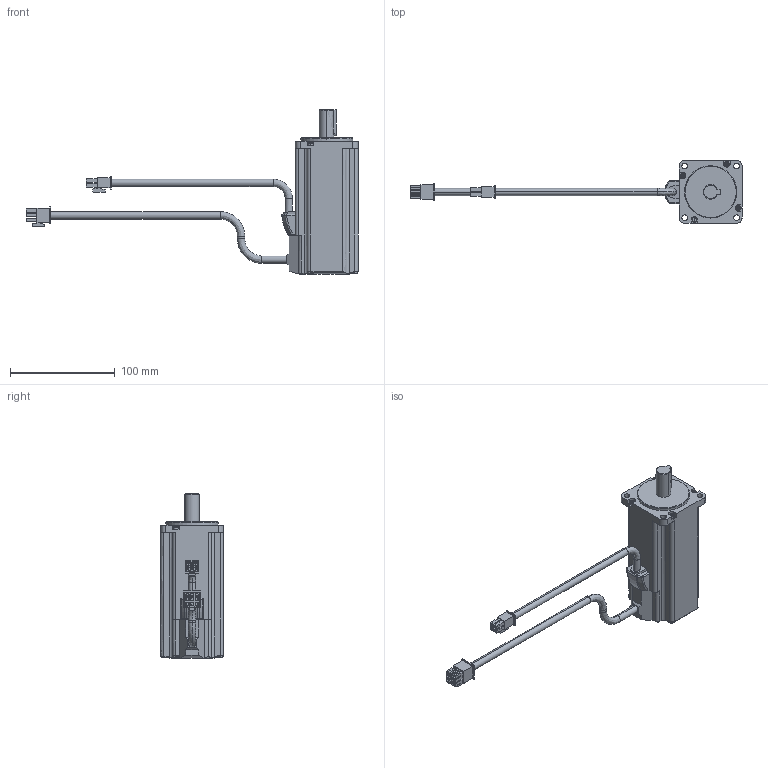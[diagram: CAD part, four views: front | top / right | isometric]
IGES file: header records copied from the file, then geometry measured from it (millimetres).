
Start section:  PTC IGES file: 10001026_rsmz-04bq-bh_no-brake.igs
Global section: file name: 10001026_rsmz-04bq-bh_no-brake.igs; native system: Pro/ENGINEER by Parametric Technology Corporation; preprocessor: 2004440; author: Administrator; organization: Unknown; date: 070829.201557; units: millimetre
Bounding box: 317.7 x 60 x 157.5 mm (x, y, z)
Volume: 430786.4 mm3; surface area: 54320 mm2
Topology: 1 solids, 1 shells, 465 faces, 1176 edges, 763 vertices
Faces by surface type: bspline 335, revolution 130
